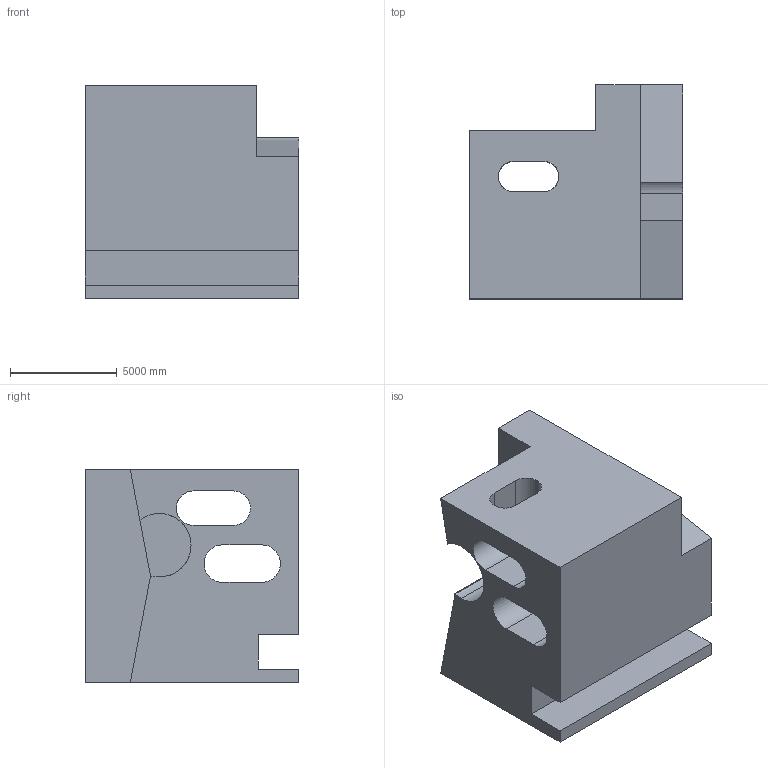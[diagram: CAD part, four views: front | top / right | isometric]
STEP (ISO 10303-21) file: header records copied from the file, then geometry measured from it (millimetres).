
FILE_DESCRIPTION (( 'STEP AP203' ), '1' );
FILE_NAME ('661.STEP', '2022-07-29T12:22:21', ( 'user' ), ( '' ), 'SwSTEP 2.0', 'SolidWorks 2021', '' );
FILE_SCHEMA (( 'CONFIG_CONTROL_DESIGN' ));
Length unit declared in the file: centimetre
Products named in the file (1): 661
Bounding box: 10000 x 10000 x 10000 mm (x, y, z)
Volume: 611252156414.5 mm3; surface area: 781605870.4 mm2
Topology: 1 solids, 1 shells, 37 faces, 114 edges, 76 vertices
Faces by surface type: plane 25, cylinder 12
Entity records: 2235 total; most frequent: CARTESIAN_POINT 1113, ORIENTED_EDGE 228, DIRECTION 203, EDGE_CURVE 114, LINE 85, VECTOR 85, VERTEX_POINT 76, AXIS2_PLACEMENT_3D 59
